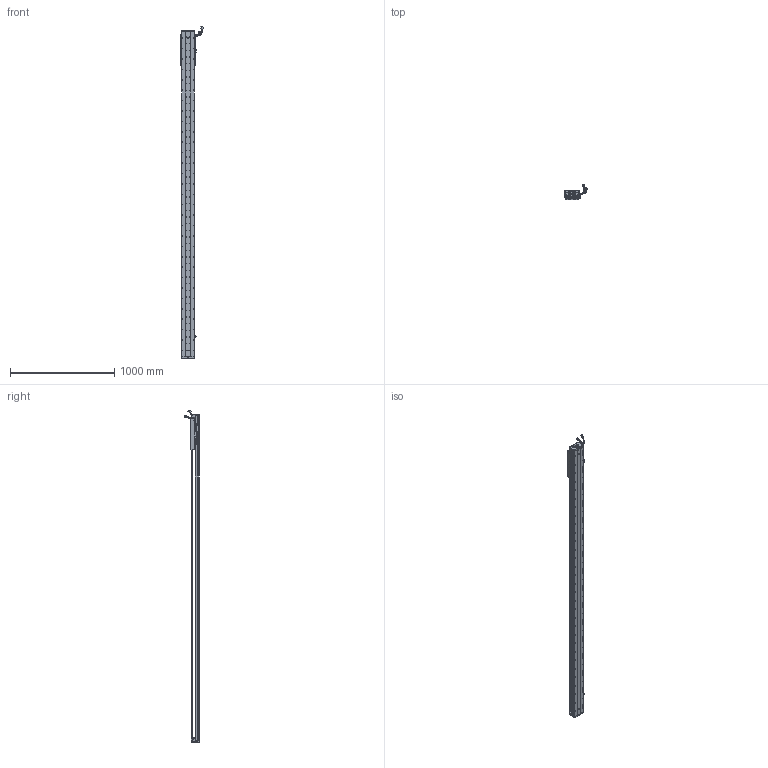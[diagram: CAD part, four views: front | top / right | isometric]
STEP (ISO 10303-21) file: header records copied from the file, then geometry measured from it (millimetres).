
FILE_DESCRIPTION (( 'STEP AP203' ), '1' );
FILE_NAME ('Z4-RY120D-1-L500-B-K.SLDASM_2750.step', '2021-05-17T06:11:29', ( '盈信电脑' ), ( '东莞市道滘镇水果街19号' ), 'SwSTEP 2.0', 'SolidWorks 2016', '' );
FILE_SCHEMA (( 'CONFIG_CONTROL_DESIGN' ));
Length unit declared in the file: millimetre
Products named in the file (37): Z-RY120D詩湍奻揤裔; SCREW-M1.6-2; 120-Z-臏賑輸盄裔(21遴); Z-RY120D詩湍狟揤裔; COVER-Part-1; SCALE-Part-2; SCREW-M1.6-1; HARNESS-Part-1; LABEL; PBU_SHEET; SCREW-M1.6; 覜茼ん672; 140雄赽晤鎢ん堤盄; Z4-RY120-500-倰第菁釱_2750; Z-120詩湍傷裔啣; SCREW-M1.6-3; HARNESS; Z4-RY120-L500詩湍100mm遵_2750; SHIELDPLATE; HARNESS-Part-2; 140蚥薯蝶輸; SCALE-Part-1; LABEL-Part-1; 080黍杅芛假蚾釱21遴; Z4-RY120D-1-L500-B-K.SLDASM_2750; SCALE; SCREW-M1.7-1; SEAL-Part-1; Z4-RY120铝滑块（21款）; RY100FB-遵嫖萇覜茼え; HOLDER0; SCREW-M1.7; COVER; 榋妏寠巭燃_暯_M2_2; PSLH080_PSLF2; 672嫖萇羲壽假蚾釱; SEAL
Assembly tree (43 placements, depth 4):
  Z4-RY120D-1-L500-B-K.SLDASM_2750
    Z4-RY120-500-倰第菁釱_2750
    覜茼ん672  x3
    672嫖萇羲壽假蚾釱  x2
    Z4-RY120铝滑块（21款）
    PSLH080_PSLF2
      SCALE
        SCALE-Part-1
        SCALE-Part-2
      HARNESS
        HARNESS-Part-1
        HARNESS-Part-2
      LABEL
        LABEL-Part-1
      COVER
        COVER-Part-1
      SEAL
        SEAL-Part-1
      榋妏寠巭燃_暯_M2_2
      SHIELDPLATE
      SCREW-M1.7
      SCREW-M1.7-1
      PBU_SHEET
      SCREW-M1.6
      SCREW-M1.6-1
      SCREW-M1.6-2
      SCREW-M1.6-3
      HOLDER0
    080黍杅芛假蚾釱21遴
    120-Z-臏賑輸盄裔(21遴)
    140雄赽晤鎢ん堤盄
    140蚥薯蝶輸  x2
    RY100FB-遵嫖萇覜茼え
    Z-120詩湍傷裔啣  x2
    Z-RY120D詩湍奻揤裔  x2
    Z-RY120D詩湍狟揤裔  x2
    Z4-RY120-L500詩湍100mm遵_2750
Bounding box: 222.83 x 140.94 x 3188.99 mm (x, y, z)
Volume: 7490509.2 mm3; surface area: 2601429.7 mm2
Topology: 38 solids, 38 shells, 3983 faces, 11468 edges, 7234 vertices
Faces by surface type: cylinder 2152, plane 1291, cone 418, torus 69, bspline 53
Entity records: 136719 total; most frequent: CARTESIAN_POINT 42806, ORIENTED_EDGE 19624, DIRECTION 17768, EDGE_CURVE 9812, AXIS2_PLACEMENT_3D 6590, VERTEX_POINT 6354, LINE 4588, VECTOR 4588
